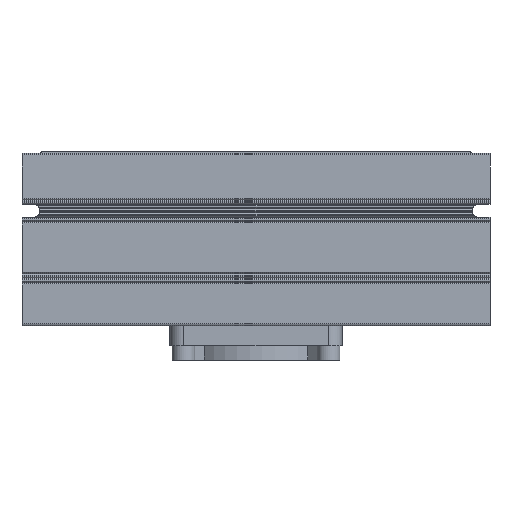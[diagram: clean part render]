
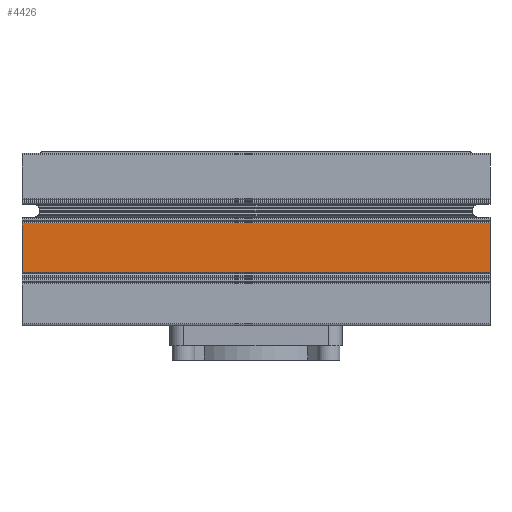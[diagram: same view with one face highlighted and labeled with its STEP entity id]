
A CAD part, left-side view. The second image highlights one B-rep face of the part: STEP entity #4426.
In plain terms, the highlighted planar face has unit normal (-1, 0, 0).
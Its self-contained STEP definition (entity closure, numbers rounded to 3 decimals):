
#4426 = ADVANCED_FACE( '', ( #10573 ), #10574, .T. );
#10573 = FACE_OUTER_BOUND( '', #23251, .T. );
#10574 = PLANE( '', #23252 );
#23251 = EDGE_LOOP( '', ( #45321, #45322, #45323, #45324 ) );
#23252 = AXIS2_PLACEMENT_3D( '', #45325, #45326, #45327 );
#45321 = ORIENTED_EDGE( '', *, *, #63832, .F. );
#45322 = ORIENTED_EDGE( '', *, *, #63833, .F. );
#45323 = ORIENTED_EDGE( '', *, *, #63834, .T. );
#45324 = ORIENTED_EDGE( '', *, *, #63835, .T. );
#45325 = CARTESIAN_POINT( '', ( -23.324, 163., 21.007 ) );
#45326 = DIRECTION( '', ( -1., 0., 0. ) );
#45327 = DIRECTION( '', ( 0., 0., 1. ) );
#63832 = EDGE_CURVE( '', #75646, #75647, #75648, .T. );
#63833 = EDGE_CURVE( '', #75649, #75646, #75650, .T. );
#63834 = EDGE_CURVE( '', #75649, #75651, #75652, .T. );
#63835 = EDGE_CURVE( '', #75651, #75647, #75653, .T. );
#75646 = VERTEX_POINT( '', #99272 );
#75647 = VERTEX_POINT( '', #99273 );
#75648 = LINE( '', #99274, #99275 );
#75649 = VERTEX_POINT( '', #99276 );
#75650 = LINE( '', #99277, #99278 );
#75651 = VERTEX_POINT( '', #99279 );
#75652 = LINE( '', #99280, #99281 );
#75653 = LINE( '', #99282, #99283 );
#99272 = CARTESIAN_POINT( '', ( -23.324, 0., 38.252 ) );
#99273 = CARTESIAN_POINT( '', ( -23.324, 0., 21.007 ) );
#99274 = CARTESIAN_POINT( '', ( -23.324, 0., 21.007 ) );
#99275 = VECTOR( '', #114588, 1000. );
#99276 = CARTESIAN_POINT( '', ( -23.324, 163., 38.252 ) );
#99277 = CARTESIAN_POINT( '', ( -23.324, 163., 38.252 ) );
#99278 = VECTOR( '', #114589, 1000. );
#99279 = CARTESIAN_POINT( '', ( -23.324, 163., 21.007 ) );
#99280 = CARTESIAN_POINT( '', ( -23.324, 163., 21.007 ) );
#99281 = VECTOR( '', #114590, 1000. );
#99282 = CARTESIAN_POINT( '', ( -23.324, 163., 21.007 ) );
#99283 = VECTOR( '', #114591, 1000. );
#114588 = DIRECTION( '', ( 0., 0., -1. ) );
#114589 = DIRECTION( '', ( 0., -1., 0. ) );
#114590 = DIRECTION( '', ( 0., 0., -1. ) );
#114591 = DIRECTION( '', ( 0., -1., 0. ) );
